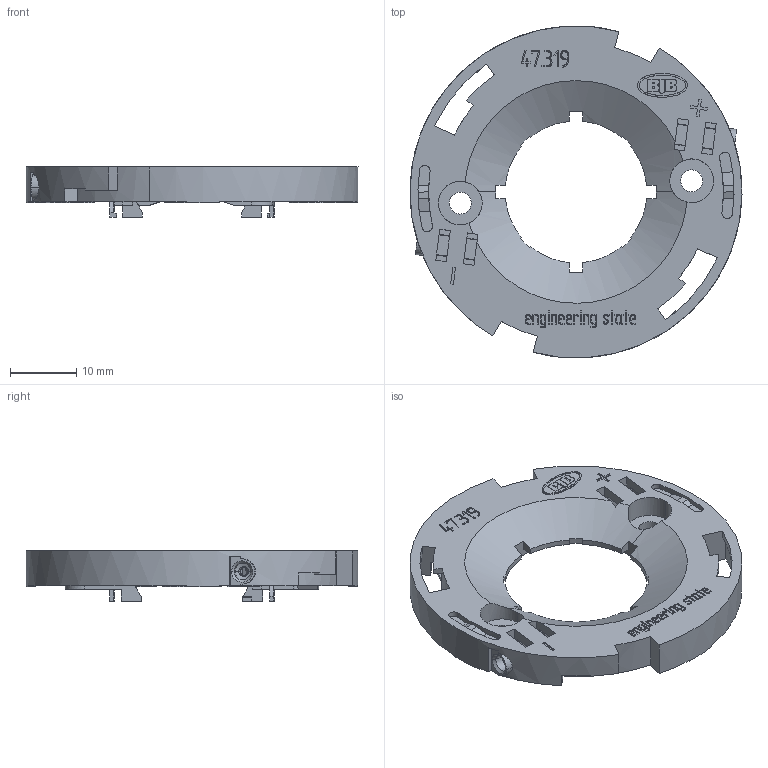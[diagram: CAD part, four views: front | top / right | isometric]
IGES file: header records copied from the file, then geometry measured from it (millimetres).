
Global section: file name: C:\CoreTechnologie\3D-in\01TYA5PY07.igs; native system: CT CoreTechnologie 3D Evolution; preprocessor: 2006; author: assmuth; date: 1160517.081438; units: metre
Bounding box: 49.99 x 49.97 x 7.65 mm (x, y, z)
Surface area: 7167.3 mm2 (no closed solid volume)
Topology: 0 solids, 0 shells, 855 faces, 4770 edges, 4770 vertices
Faces by surface type: bspline 855
